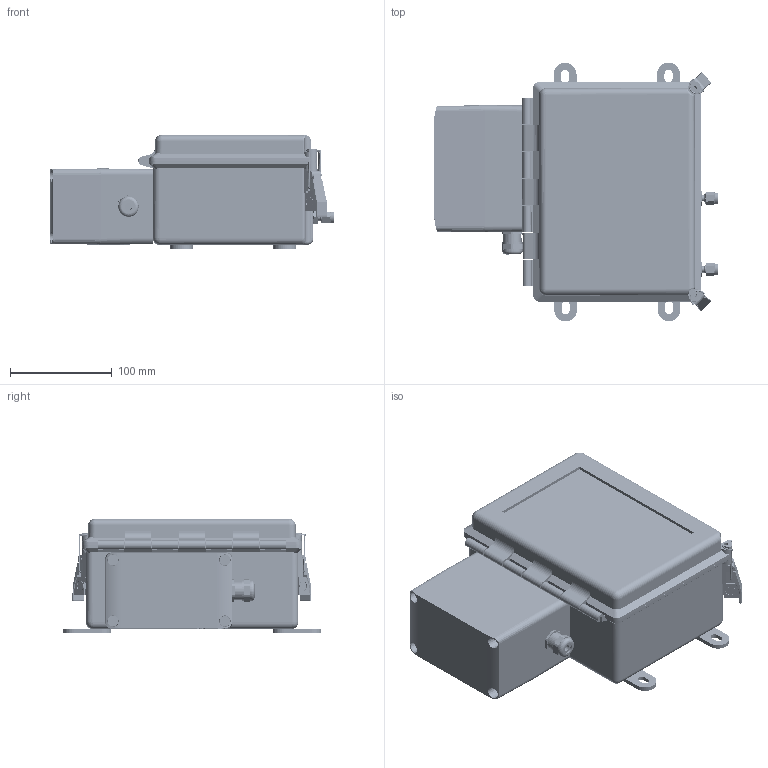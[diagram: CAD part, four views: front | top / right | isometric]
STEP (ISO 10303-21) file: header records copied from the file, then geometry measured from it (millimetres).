
FILE_DESCRIPTION (( 'STEP AP214' ), '1' );
FILE_NAME ('GPR-1500A.STEP', '2025-09-29T16:31:13', ( '' ), ( '' ), 'SwSTEP 2.0', 'SolidWorks 2025', '' );
FILE_SCHEMA (( 'AUTOMOTIVE_DESIGN' ));
Length unit declared in the file: inch
Products named in the file (1): GPR-1500A
Bounding box: 278.67 x 254.21 x 112.01 mm (x, y, z)
Volume: 1125853.2 mm3; surface area: 844851.6 mm2
Topology: 969 solids, 969 shells, 27579 faces, 71468 edges, 46099 vertices
Faces by surface type: plane 16373, cylinder 7757, sphere 2190, cone 742, bspline 326, torus 191
Entity records: 906537 total; most frequent: CARTESIAN_POINT 210180, ORIENTED_EDGE 142800, DIRECTION 141083, EDGE_CURVE 71400, VECTOR 49795, LINE 49795, VERTEX_POINT 46099, AXIS2_PLACEMENT_3D 45644
